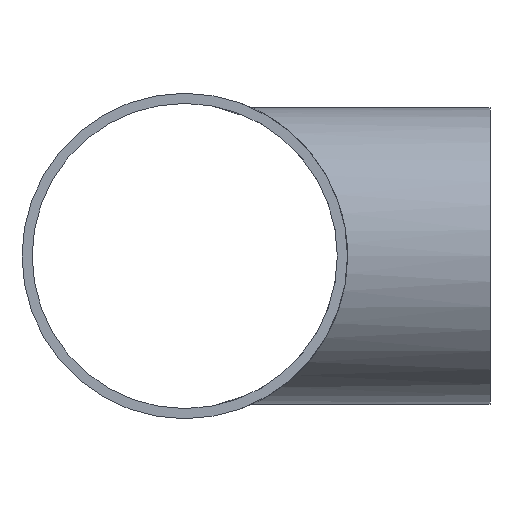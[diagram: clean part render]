
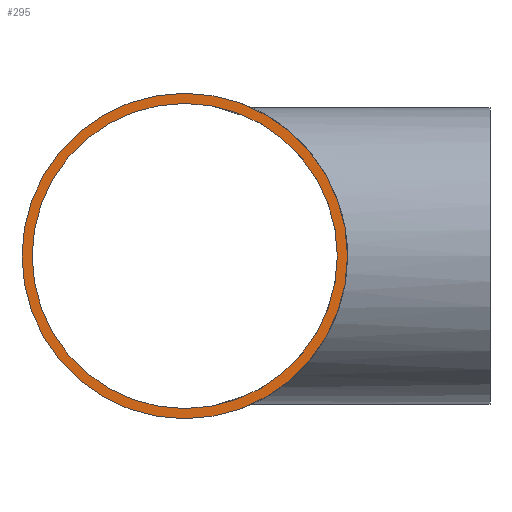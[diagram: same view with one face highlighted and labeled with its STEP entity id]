
A CAD part, left-side view. The second image highlights one B-rep face of the part: STEP entity #295.
In plain terms, the highlighted planar face has unit normal (-1, 0, 0).
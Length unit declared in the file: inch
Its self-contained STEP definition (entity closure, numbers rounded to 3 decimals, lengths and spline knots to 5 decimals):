
#79=FACE_BOUND('',#114,.T.);
#92=FACE_OUTER_BOUND('',#113,.T.);
#113=EDGE_LOOP('',(#242));
#114=EDGE_LOOP('',(#243,#244));
#135=CIRCLE('',#343,6.563);
#136=CIRCLE('',#344,6.563);
#137=CIRCLE('',#346,7.);
#157=VERTEX_POINT('',#626);
#158=VERTEX_POINT('',#628);
#161=VERTEX_POINT('',#734);
#186=EDGE_CURVE('',#158,#157,#135,.T.);
#187=EDGE_CURVE('',#157,#158,#136,.T.);
#190=EDGE_CURVE('',#161,#161,#137,.T.);
#242=ORIENTED_EDGE('',*,*,#190,.T.);
#243=ORIENTED_EDGE('',*,*,#186,.T.);
#244=ORIENTED_EDGE('',*,*,#187,.T.);
#265=PLANE('',#347);
#295=ADVANCED_FACE('',(#92,#79),#265,.F.);
#343=AXIS2_PLACEMENT_3D('',#629,#421,#422);
#344=AXIS2_PLACEMENT_3D('',#630,#423,#424);
#346=AXIS2_PLACEMENT_3D('',#735,#427,#428);
#347=AXIS2_PLACEMENT_3D('',#737,#430,#431);
#421=DIRECTION('center_axis',(1.,0.,0.));
#422=DIRECTION('ref_axis',(0.,-1.,0.));
#423=DIRECTION('center_axis',(1.,0.,0.));
#424=DIRECTION('ref_axis',(0.,-1.,0.));
#427=DIRECTION('center_axis',(-1.,0.,0.));
#428=DIRECTION('ref_axis',(0.,-1.,0.));
#430=DIRECTION('center_axis',(1.,0.,0.));
#431=DIRECTION('ref_axis',(0.,0.,-1.));
#626=CARTESIAN_POINT('',(-14.,6.563,0.));
#628=CARTESIAN_POINT('',(-14.,-6.563,0.));
#629=CARTESIAN_POINT('Origin',(-14.,0.,0.));
#630=CARTESIAN_POINT('Origin',(-14.,0.,0.));
#734=CARTESIAN_POINT('',(-14.,7.,0.));
#735=CARTESIAN_POINT('Origin',(-14.,0.,0.));
#737=CARTESIAN_POINT('Origin',(-14.,0.,0.));
